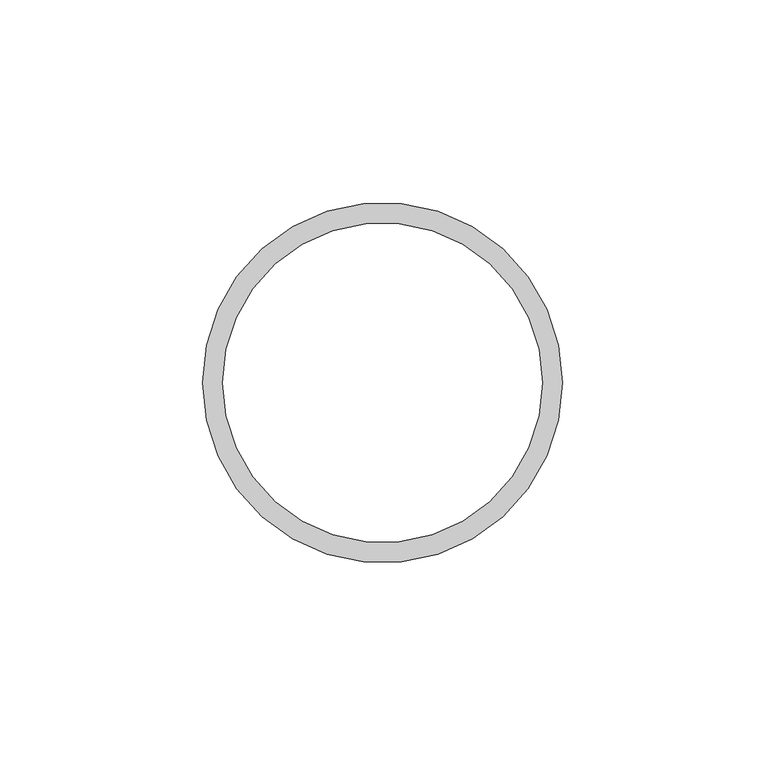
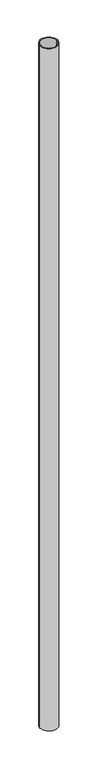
"""IFC4 building model written with IfcOpenShell, lengths in millimetres: column geometry, NLRS_28_SC_TLB_kolom buis_generiek_ISR : ø88.9x5 ."""

from ifc_helpers import new_model, si_unit, point, frame, origin, origin_2d, place, context, project, spatial, circle_curve, trimmed, segment, composite_curve, outline, extrude, source, transform, mapped, element, save


def column_1d5dbb1e(model_context):
    return source(origin(), model_context, "Body", "SweptSolid", [
        extrude(outline(composite_curve([segment(trimmed(circle_curve(origin_2d(), 44.45), [point((44.45, 0.0))], [point((-44.45, 0.0))], False, "CARTESIAN"), True, "CONTINUOUS"), segment(trimmed(circle_curve(origin_2d(), 44.45), [point((-44.45, 0.0))], [point((44.45, 0.0))], False, "CARTESIAN"), True, "CONTINUOUS")], self_intersect=False), holes=[composite_curve([segment(trimmed(circle_curve(origin_2d(), 39.45), [point((39.45, 0.0))], [point((-39.45, 0.0))], True, "CARTESIAN"), True, "CONTINUOUS"), segment(trimmed(circle_curve(origin_2d(), 39.45), [point((-39.45, 0.0))], [point((39.45, 0.0))], True, "CARTESIAN"), True, "CONTINUOUS")], self_intersect=False)]), frame((0.0, 0.0, 3500.0), z_axis=(0.0, 0.0, 1.0), x_axis=(1.0, 0.0, 0.0)), (0.0, 0.0, 1.0), 3650.0),
    ])


if __name__ == "__main__":
    model = new_model("IFC4")
    model_context = context("Model", 3, world=origin())
    ifc_project = project(units=[si_unit("LENGTHUNIT", "METRE", prefix="MILLI")], contexts=[model_context])
    site = spatial("IfcSite", under=ifc_project)
    building = spatial("IfcBuilding", under=site)
    placement = place(None, origin())
    column_shape = column_1d5dbb1e(model_context)
    element("IfcColumn", 1, ObjectType="NLRS_28_SC_TLB_kolom buis_generiek_ISR : ø88.9x5 ", at=placement, inside=building, context=model_context, shape_type="MappedRepresentation", body=[
        mapped(column_shape, transform((0.0, 0.0, 0.0), x_axis=(1.0, 0.0, 0.0), y_axis=(0.0, 1.0, 0.0), z_axis=(0.0, 0.0, 1.0))),
    ])
    save(model, "model.ifc")
